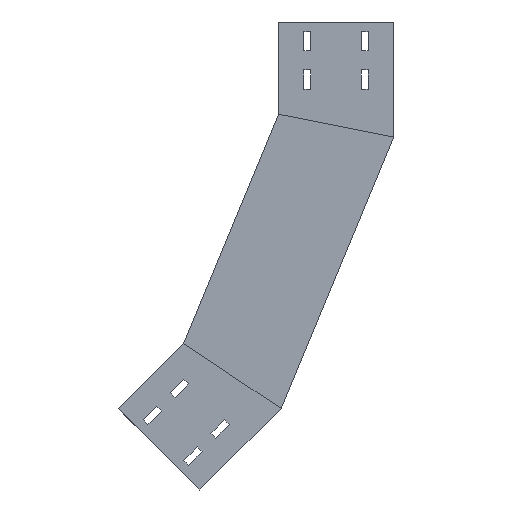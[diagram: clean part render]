
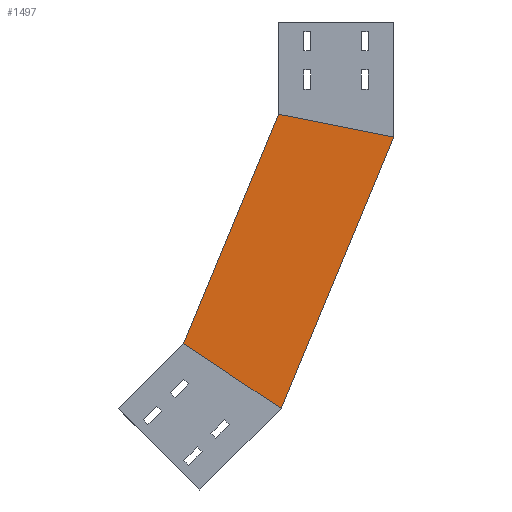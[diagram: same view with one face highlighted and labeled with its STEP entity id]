
A CAD part, left-side view. The second image highlights one B-rep face of the part: STEP entity #1497.
In plain terms, the highlighted planar face has unit normal (-1, 0, 0) as drawn and (1, 0, 0) by its records, which use the part's own axes.
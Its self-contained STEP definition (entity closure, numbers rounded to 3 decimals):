
#59 = DIRECTION ( 'NONE',  ( 0., -0.831, -0.556 ) ) ;
#78 = CARTESIAN_POINT ( 'NONE',  ( 0., 150., -120.163 ) ) ;
#143 = ORIENTED_EDGE ( 'NONE', *, *, #1879, .F. ) ;
#192 = VERTEX_POINT ( 'NONE', #1910 ) ;
#202 = ORIENTED_EDGE ( 'NONE', *, *, #1399, .T. ) ;
#285 = VECTOR ( 'NONE', #59, 1000. ) ;
#444 = VERTEX_POINT ( 'NONE', #1979 ) ;
#477 = AXIS2_PLACEMENT_3D ( 'NONE', #1258, #1607, #672 ) ;
#490 = PLANE ( 'NONE',  #477 ) ;
#510 = EDGE_CURVE ( 'NONE', #1349, #444, #766, .T. ) ;
#518 = LINE ( 'NONE', #1437, #285 ) ;
#579 = VERTEX_POINT ( 'NONE', #1393 ) ;
#603 = DIRECTION ( 'NONE',  ( 0., 0.383, -0.924 ) ) ;
#616 = CARTESIAN_POINT ( 'NONE',  ( 0., 28.701, -144.291 ) ) ;
#648 = ORIENTED_EDGE ( 'NONE', *, *, #1895, .T. ) ;
#672 = DIRECTION ( 'NONE',  ( 0., 0., 1. ) ) ;
#766 = LINE ( 'NONE', #938, #817 ) ;
#817 = VECTOR ( 'NONE', #603, 1000. ) ;
#907 = LINE ( 'NONE', #616, #1508 ) ;
#938 = CARTESIAN_POINT ( 'NONE',  ( 0., 138.582, -92.597 ) ) ;
#996 = EDGE_LOOP ( 'NONE', ( #1152, #202, #648, #143 ) ) ;
#1152 = ORIENTED_EDGE ( 'NONE', *, *, #510, .F. ) ;
#1161 = DIRECTION ( 'NONE',  ( 0., 0.383, -0.924 ) ) ;
#1258 = CARTESIAN_POINT ( 'NONE',  ( 0., 0., -150. ) ) ;
#1349 = VERTEX_POINT ( 'NONE', #78 ) ;
#1393 = CARTESIAN_POINT ( 'NONE',  ( 0., 146.568, -503.846 ) ) ;
#1396 = VECTOR ( 'NONE', #1161, 1000. ) ;
#1399 = EDGE_CURVE ( 'NONE', #1349, #192, #907, .T. ) ;
#1437 = CARTESIAN_POINT ( 'NONE',  ( 0., 208.695, -462.334 ) ) ;
#1477 = LINE ( 'NONE', #1487, #1396 ) ;
#1487 = CARTESIAN_POINT ( 'NONE',  ( 0., 0., -150. ) ) ;
#1497 = ADVANCED_FACE ( 'NONE', ( #1742 ), #490, .F. ) ;
#1508 = VECTOR ( 'NONE', #2014, 1000. ) ;
#1607 = DIRECTION ( 'NONE',  ( -1., 0., 0. ) ) ;
#1742 = FACE_OUTER_BOUND ( 'NONE', #996, .T. ) ;
#1879 = EDGE_CURVE ( 'NONE', #444, #579, #518, .T. ) ;
#1895 = EDGE_CURVE ( 'NONE', #192, #579, #1477, .T. ) ;
#1910 = CARTESIAN_POINT ( 'NONE',  ( 0., 0., -150. ) ) ;
#1979 = CARTESIAN_POINT ( 'NONE',  ( 0., 273.732, -418.878 ) ) ;
#2014 = DIRECTION ( 'NONE',  ( 0., -0.981, -0.195 ) ) ;
